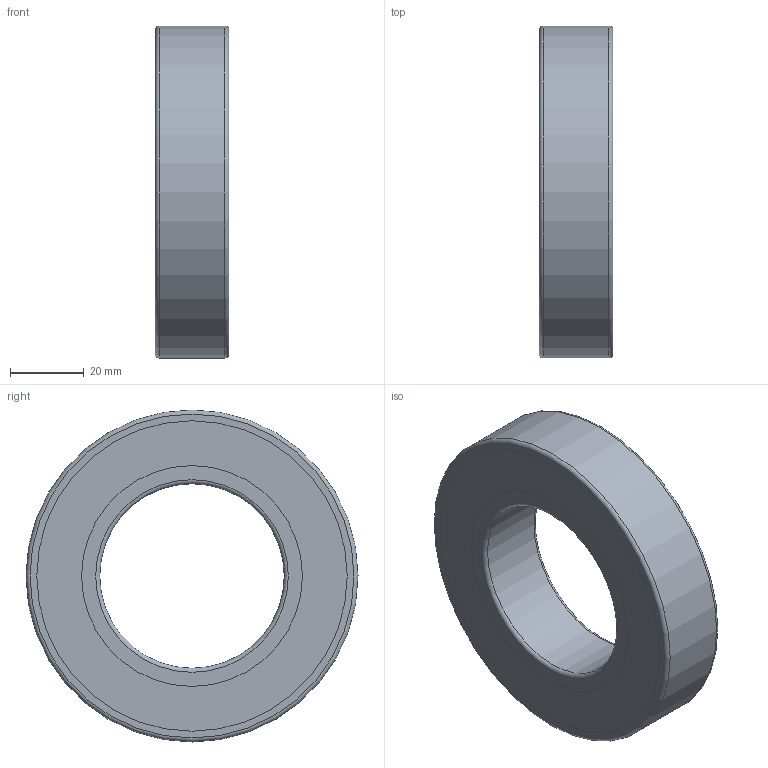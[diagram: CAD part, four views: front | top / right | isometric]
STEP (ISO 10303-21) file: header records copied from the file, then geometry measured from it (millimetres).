
FILE_DESCRIPTION(/* description */ (''),/* implementation_level */ '2;1');
FILE_NAME(/* name */ 'D:\moje\parametrické\62--\rada62---2RSR\62---2RSR\6210-2RSR.stp',/* time_stamp */ '2016-04-04T10:39:56+02:00',/* author */ ('OUBALASKO'),/* organization */ (''),/* preprocessor_version */ 'ST-DEVELOPER v15.2',/* originating_system */ 'Autodesk Inventor 2014',/* authorisation */ '');
FILE_SCHEMA (('AUTOMOTIVE_DESIGN { 1 0 10303 214 3 1 1 }'));
Length unit declared in the file: millimetre
Products named in the file (6): 6210-02-2RSR; 6210-ball; 6210-cage; 6210-01-2RSR; 6210-seal-2RSR,ZR; 6210-2RSR
Bounding box: 20 x 90 x 90 mm (x, y, z)
Volume: 61247.6 mm3; surface area: 44071.5 mm2
Topology: 14 solids, 14 shells, 104 faces, 366 edges, 240 vertices
Faces by surface type: plane 42, sphere 40, cylinder 16, torus 6
Full cylindrical faces by diameter (mm): 50 x1, 59.84 x4, 66.19 x2, 73.81 x2, 80.16 x2, 84.16 x4, 90 x1
Entity records: 2528 total; most frequent: CARTESIAN_POINT 1026, DIRECTION 336, ORIENTED_EDGE 242, AXIS2_PLACEMENT_3D 168, EDGE_CURVE 121, VERTEX_POINT 90, CIRCLE 89, EDGE_LOOP 85
